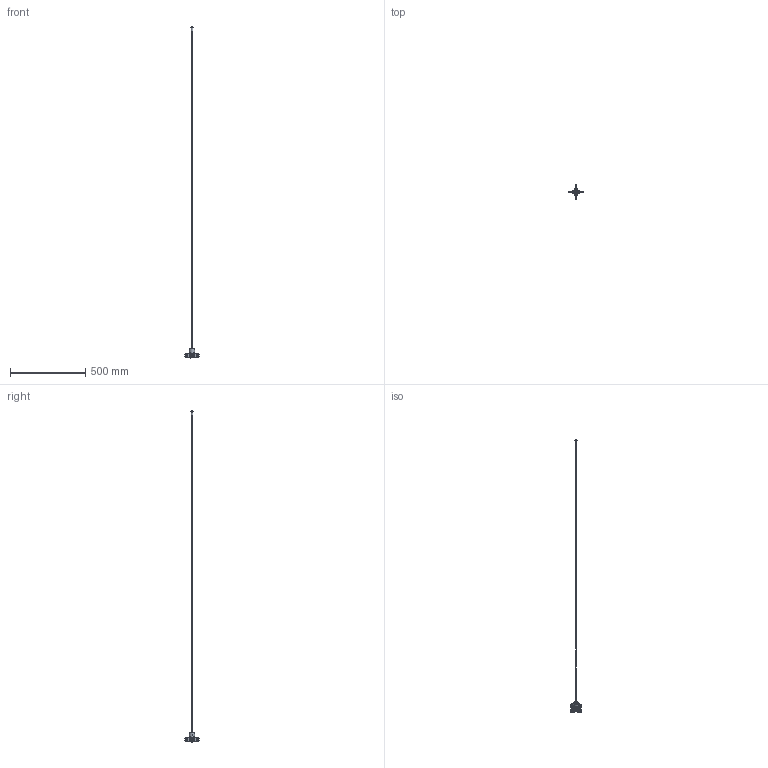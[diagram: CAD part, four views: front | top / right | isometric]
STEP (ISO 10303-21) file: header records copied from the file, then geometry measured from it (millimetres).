
FILE_DESCRIPTION(/* description */ (''),/* implementation_level */ '2;1');
FILE_NAME(/* name */ 'AY720XX.stp',/* time_stamp */ '2022-09-09T14:22:10+02:00',/* author */ (''),/* organization */ (''),/* preprocessor_version */ 'ST-DEVELOPER v16.7',/* originating_system */ 'SIEMENS PLM Software NX 1911',/* authorisation */ '');
FILE_SCHEMA (('AUTOMOTIVE_DESIGN { 1 0 10303 214 3 1 1 1 }'));
Products named in the file (16): X303000024_-; X305000014_-; Y104003731_A; Y104003730_A; Y104003710_A; Y104003709_B; Y104003702_C; Y201002826_A; Y201002824_A; Y104003704_A; Y104003703_A; Y101001222_A; Y101001221_A; Y106300011_A; X304000029_-; AY7X0ZZ_D
Assembly tree (26 placements, depth 2):
  AY7X0ZZ_D
    X304000029_-
    Y106300011_A
    Y101001221_A  x2
    Y101001222_A  x2
    Y104003703_A
    Y104003704_A
    Y201002824_A  x4
    Y201002826_A  x4
    Y104003702_C
    Y104003709_B
    Y104003710_A
    Y104003730_A
    Y104003731_A
    X305000014_-  x4
    X303000024_-
Bounding box: 94.86 x 94.85 x 2209.08 mm (x, y, z)
Volume: 52809.6 mm3; surface area: 63446.6 mm2
Topology: 26 solids, 26 shells, 4996 faces, 12271 edges, 7199 vertices
Faces by surface type: bspline 2192, cylinder 1303, plane 841, cone 340, torus 276, sphere 44
Full cylindrical faces by diameter (mm): 1 x1, 2 x1, 3.2 x1, 3.25 x1, 3.8 x1, 4 x6, 5 x1, 5.5 x1, 6 x2, 6.2 x1, 11.4 x1, 12 x2, 16 x1, 20 x1, 34 x2
Entity records: 136683 total; most frequent: CARTESIAN_POINT 93991, ORIENTED_EDGE 10598, DIRECTION 6200, EDGE_CURVE 5299, VERTEX_POINT 3156, AXIS2_PLACEMENT_3D 2395, EDGE_LOOP 2298, ADVANCED_FACE 2212
